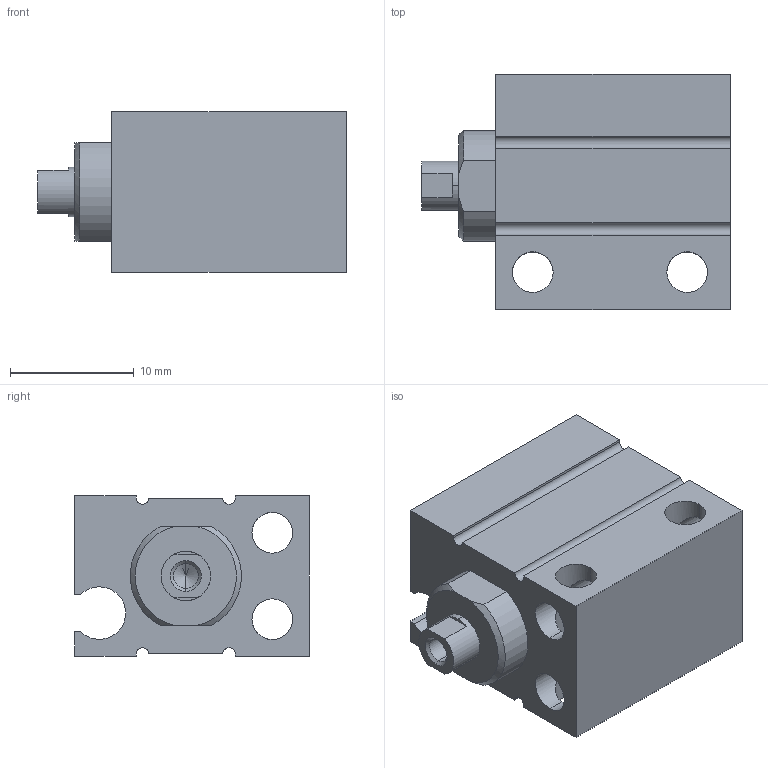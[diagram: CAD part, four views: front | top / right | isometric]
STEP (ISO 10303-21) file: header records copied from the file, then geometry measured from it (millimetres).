
FILE_DESCRIPTION (( 'STEP AP203' ), '1' );
FILE_NAME ('CLJB6-6.STEP', '2020-07-30T18:42:09', ( '' ), ( '' ), 'SwSTEP 2.0', 'SolidWorks 2019', '' );
FILE_SCHEMA (( 'CONFIG_CONTROL_DESIGN' ));
Length unit declared in the file: millimetre
Products named in the file (1): CLJB6-6
Bounding box: 25 x 19 x 13 mm (x, y, z)
Volume: 3947.3 mm3; surface area: 3006.4 mm2
Topology: 2 solids, 2 shells, 92 faces, 240 edges, 145 vertices
Faces by surface type: cylinder 49, plane 29, cone 14
Entity records: 2863 total; most frequent: CARTESIAN_POINT 580, ORIENTED_EDGE 468, DIRECTION 462, EDGE_CURVE 234, AXIS2_PLACEMENT_3D 171, VERTEX_POINT 145, VECTOR 120, LINE 120
